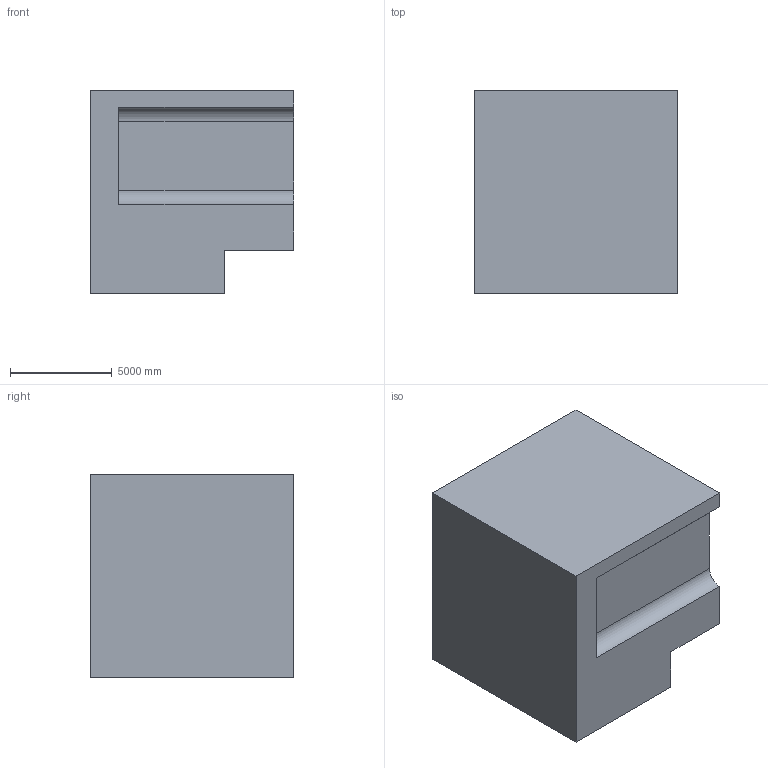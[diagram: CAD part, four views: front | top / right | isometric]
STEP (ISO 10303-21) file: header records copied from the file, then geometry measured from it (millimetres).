
FILE_DESCRIPTION (( 'STEP AP203' ), '1' );
FILE_NAME ('223.STEP', '2022-07-28T13:57:23', ( 'user' ), ( '' ), 'SwSTEP 2.0', 'SolidWorks 2021', '' );
FILE_SCHEMA (( 'CONFIG_CONTROL_DESIGN' ));
Length unit declared in the file: centimetre
Products named in the file (1): 223
Bounding box: 10000 x 10000 x 10000 mm (x, y, z)
Volume: 853710557006.6 mm3; surface area: 662835955.6 mm2
Topology: 1 solids, 1 shells, 21 faces, 54 edges, 36 vertices
Faces by surface type: plane 15, cylinder 6
Entity records: 721 total; most frequent: DIRECTION 114, CARTESIAN_POINT 112, ORIENTED_EDGE 108, EDGE_CURVE 54, VECTOR 38, LINE 38, AXIS2_PLACEMENT_3D 38, VERTEX_POINT 36
